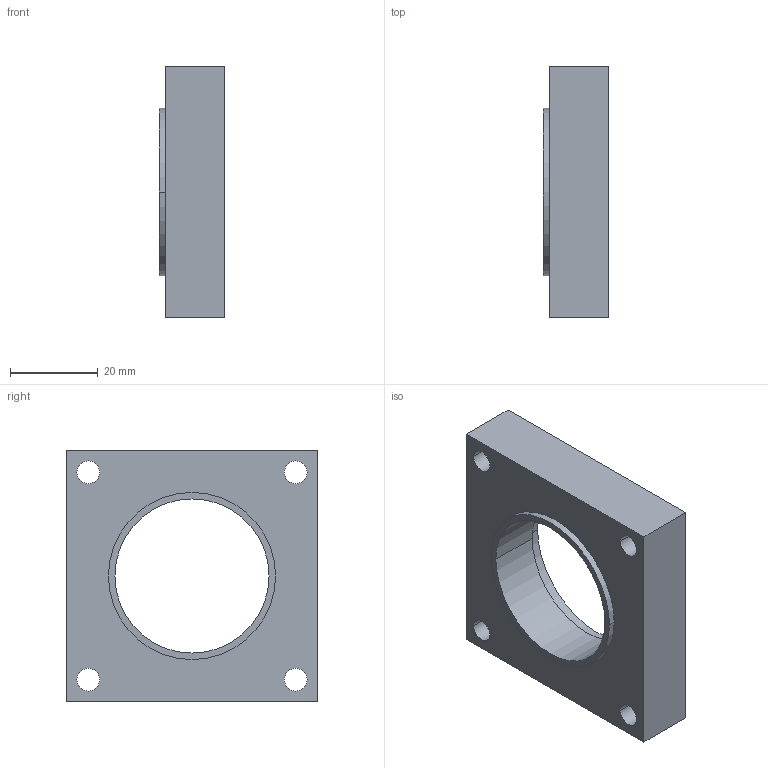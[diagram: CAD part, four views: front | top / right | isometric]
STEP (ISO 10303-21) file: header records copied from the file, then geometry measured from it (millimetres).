
FILE_DESCRIPTION((''),'2;1');
FILE_NAME('000-5069-02','2002-09-10T',('FKrakosh'),(''),'PRO/ENGINEER BY PARAMETRIC TECHNOLOGY CORPORATION, 2002270','PRO/ENGINEER BY PARAMETRIC TECHNOLOGY CORPORATION, 2002270','');
FILE_SCHEMA(('CONFIG_CONTROL_DESIGN'));
Length unit declared in the file: inch
Products named in the file (1): 000-5069-02
Bounding box: 14.99 x 57.15 x 57.15 mm (x, y, z)
Volume: 29518.9 mm3; surface area: 10250 mm2
Topology: 1 solids, 1 shells, 22 faces, 54 edges, 36 vertices
Faces by surface type: cylinder 14, plane 8
Entity records: 726 total; most frequent: DIRECTION 126, CARTESIAN_POINT 112, ORIENTED_EDGE 108, EDGE_CURVE 54, AXIS2_PLACEMENT_3D 50, VERTEX_POINT 36, EDGE_LOOP 34, CIRCLE 28
